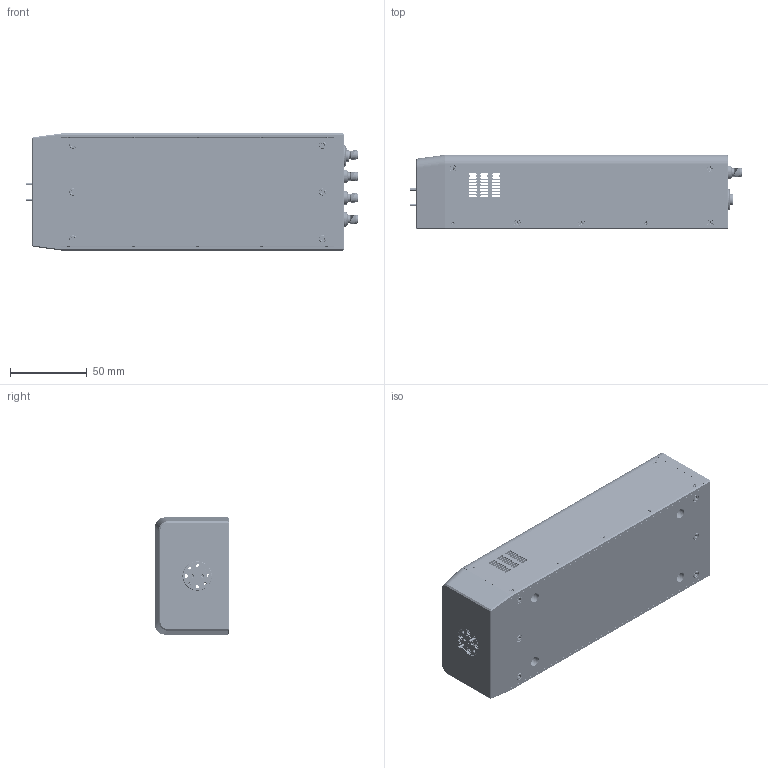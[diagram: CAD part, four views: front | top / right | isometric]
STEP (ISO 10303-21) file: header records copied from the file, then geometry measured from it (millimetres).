
FILE_DESCRIPTION (( 'STEP AP214' ), '1' );
FILE_NAME ('TO-SF-A-2, Defeatured no feet .STEP', '2025-10-06T23:27:04', ( '' ), ( '' ), 'SwSTEP 2.0', 'SolidWorks 2021', '' );
FILE_SCHEMA (( 'AUTOMOTIVE_DESIGN' ));
Length unit declared in the file: inch
Products named in the file (1): TO-SF-A-2, Defeatured no feet 
Bounding box: 216.16 x 48.26 x 76.2 mm (x, y, z)
Volume: 185765 mm3; surface area: 139209.4 mm2
Topology: 82 solids, 83 shells, 4486 faces, 11905 edges, 7588 vertices
Faces by surface type: cylinder 2081, plane 1215, cone 711, bspline 450, sphere 21, torus 8
Entity records: 283489 total; most frequent: CARTESIAN_POINT 156293, ORIENTED_EDGE 23512, DIRECTION 18031, EDGE_CURVE 11756, VERTEX_POINT 7582, AXIS2_PLACEMENT_3D 6746, EDGE_LOOP 4954, VECTOR 4539
